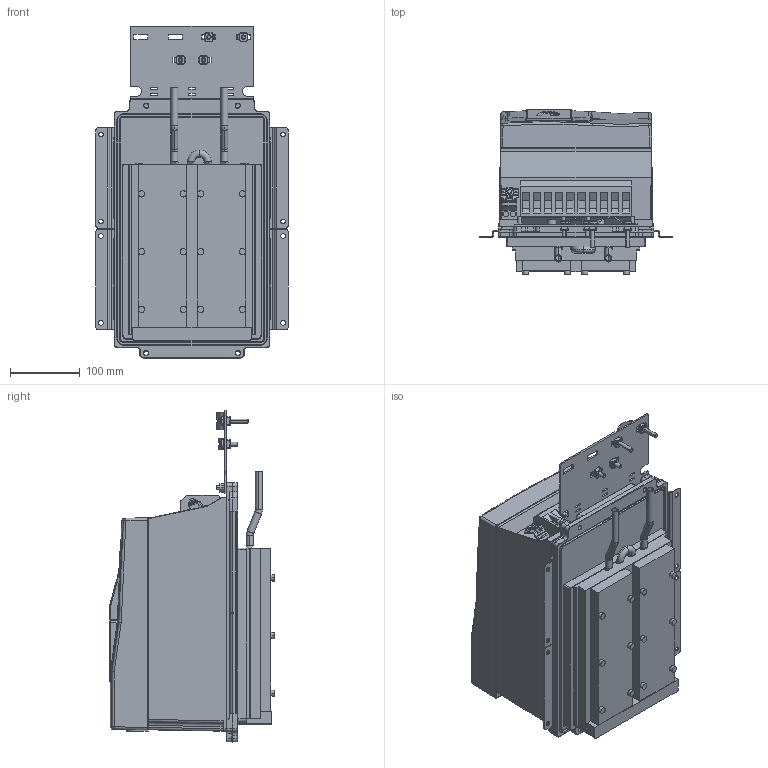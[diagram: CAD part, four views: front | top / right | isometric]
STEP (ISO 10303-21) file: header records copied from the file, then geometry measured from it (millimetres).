
FILE_DESCRIPTION (( 'STEP AP214' ), '1' );
FILE_NAME ('F6-4TW5-A011.STEP', '2020-12-10T07:46:28', ( '' ), ( '' ), 'SwSTEP 2.0', 'SolidWorks 2019', '' );
FILE_SCHEMA (( 'AUTOMOTIVE_DESIGN' ));
Length unit declared in the file: millimetre
Products named in the file (13): 10061645_000; 10059761_000; 10045826_000_Basis Leistungsteil + Zubeh”r TW5 (Kundenmodell); 10061644_000_Deckel (Kundenmodell); 10032600_000_Kundenmodell; F6-4TW5-A011; 10061789_000; 10063070_000; 10059764_000_Blindabdeckung (Kundenmodell); 10059765_000; 10044643_000_Kundenmodell; 10058448_000; 10044453_000_Schirmung (Kundenmodell)
Assembly tree (12 placements, depth 4):
  F6-4TW5-A011
    10045826_000_Basis Leistungsteil + Zubeh”r TW5 (Kundenmodell)
      10061789_000
    10032600_000_Kundenmodell
      10061644_000_Deckel (Kundenmodell)
        10061645_000
      10058448_000
    10044643_000_Kundenmodell
      10059764_000_Blindabdeckung (Kundenmodell)
        10059765_000
      10059761_000
    10044453_000_Schirmung (Kundenmodell)
      10063070_000
Bounding box: 277 x 237.2 x 477.5 mm (x, y, z)
Volume: 14627617.3 mm3; surface area: 933851 mm2
Topology: 17 solids, 37 shells, 3635 faces, 9685 edges, 6164 vertices
Faces by surface type: plane 1634, cylinder 1052, bspline 565, torus 204, cone 132, sphere 48
Entity records: 136970 total; most frequent: CARTESIAN_POINT 49168, ORIENTED_EDGE 19252, DIRECTION 16782, EDGE_CURVE 9626, VERTEX_POINT 6162, AXIS2_PLACEMENT_3D 5700, VECTOR 5382, LINE 5382
